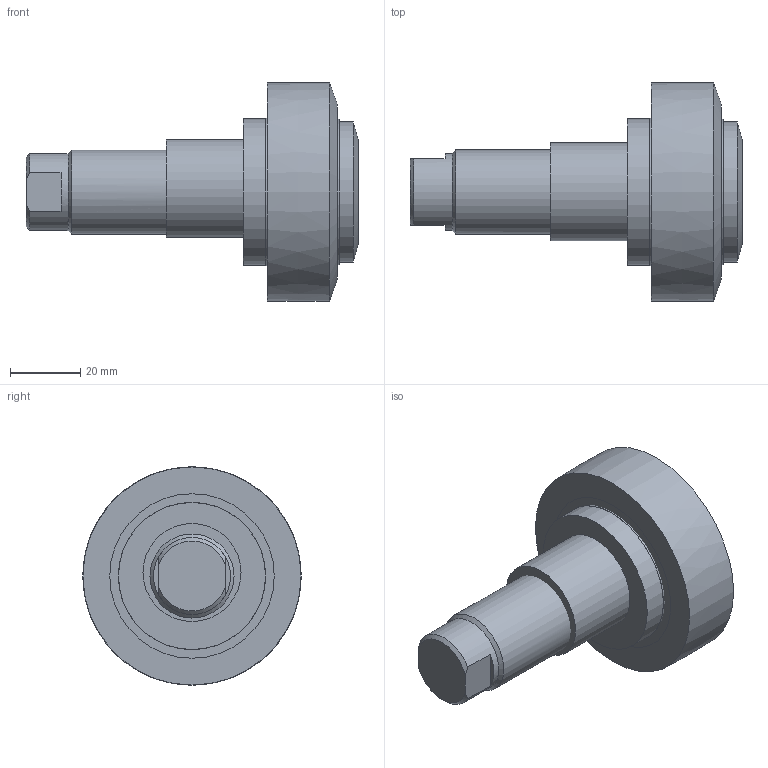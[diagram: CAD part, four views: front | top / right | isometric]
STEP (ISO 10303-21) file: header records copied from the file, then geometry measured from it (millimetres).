
FILE_DESCRIPTION(/* description */ ('-','CAx-IF Rec.Pracs.---Representation and Presentation of Product Manufacturing Information (PMI)---4.0---2014-10-13'),/* implementation_level */ '2;1');
FILE_NAME(/* name */ 'c:\temp\f33720e7-e19b-4ff3-b939-c24494db7877\2c039184-2ff5-453b-bd48-093ea95a175f.stp',/* time_stamp */ '2020-05-28T13:29:51+02:00',/* author */ ('-'),/* organization */ ('NTI CADcenter A/S'),/* preprocessor_version */ 'ST-DEVELOPER v18',/* originating_system */ 'Autodesk Inventor 2020',/* authorisation */ '-');
FILE_SCHEMA (('AP242_MANAGED_MODEL_BASED_3D_ENGINEERING_MIM_LF { 1 0 10303 442 1 1 4 }'));
Length unit declared in the file: millimetre
Products named in the file (1): TR 060.1360E_Kontur
Bounding box: 94.85 x 62.5 x 62.5 mm (x, y, z)
Volume: 179394.8 mm3; surface area: 43843.3 mm2
Topology: 8 solids, 8 shells, 53 faces, 113 edges, 83 vertices
Faces by surface type: plane 29, cylinder 16, cone 7, bspline 1
Full cylindrical faces by diameter (mm): 22 x1, 24 x1, 25.2 x1, 28 x1, 38 x1, 40 x1, 41.5 x1, 42 x1, 42.1 x2, 45 x1, 45.5 x1, 47 x2
Entity records: 1661 total; most frequent: CARTESIAN_POINT 320, DIRECTION 281, ORIENTED_EDGE 226, AXIS2_PLACEMENT_3D 123, EDGE_CURVE 113, VERTEX_POINT 83, CIRCLE 70, STYLED_ITEM 61
